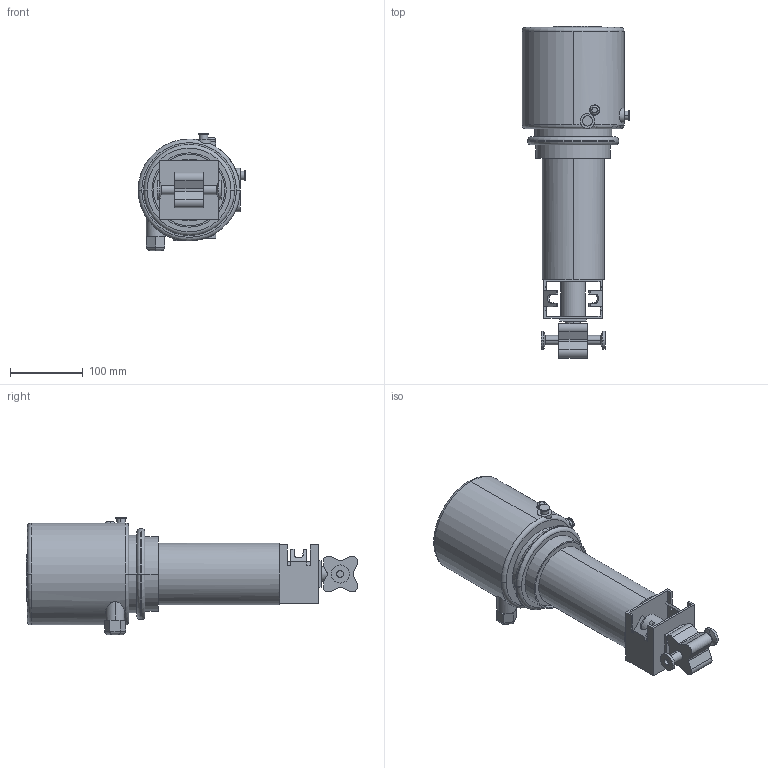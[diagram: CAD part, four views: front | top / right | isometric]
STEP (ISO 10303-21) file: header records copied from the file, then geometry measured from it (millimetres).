
FILE_DESCRIPTION(('Creo Elements/Direct Modeling STEP Export'),'2;1');
FILE_NAME('BLV1-0.5T-NC-12CL-CU4.stp','2019-05-10T 7:42:18',(''),(''),'Creo Elements/Direct Modeling STEP processor for AP214 (Solid Model)','Creo Elements/Direct Modeling 19.0F 14-Feb-2017 (C) Parametric Technology GmbH','');
FILE_SCHEMA(('AUTOMOTIVE_DESIGN { 1 0 10303 214 1 1 1 1 }'));
Length unit declared in the file: millimetre
Products named in the file (2): BLV1-0.5T-NC-12CL-CU4
Assembly tree (1 placements, depth 2):
  BLV1-0.5T-NC-12CL-CU4
    BLV1-0.5T-NC-12CL-CU4
Bounding box: 148 x 455.96 x 161.4 mm (x, y, z)
Volume: 3646119.9 mm3; surface area: 220068.6 mm2
Topology: 1 solids, 1 shells, 240 faces, 610 edges, 395 vertices
Faces by surface type: cylinder 118, plane 108, torus 10, cone 4
Entity records: 10212 total; most frequent: CARTESIAN_POINT 4523, ORIENTED_EDGE 1222, DIRECTION 1098, EDGE_CURVE 611, AXIS2_PLACEMENT_3D 400, VERTEX_POINT 395, VECTOR 298, LINE 298
